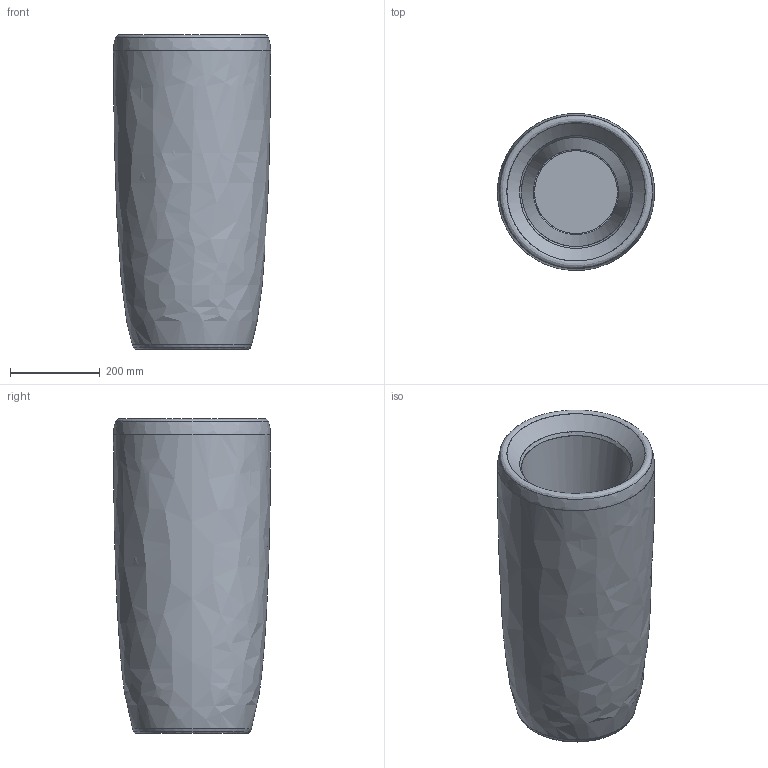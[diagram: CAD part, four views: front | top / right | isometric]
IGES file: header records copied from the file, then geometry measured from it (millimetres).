
Start section: SolidWorks IGES file using NURBS representation for surfaces
Global section: file name: Z:\Modele 3D_WWW\_KOLEKCJE WWW\FLOWERPOT\FLOWERPOT-M-9712\FLOWERPOT-M-9712.IGS; native system: SolidWorks 2021; preprocessor: SolidWorks 2021; author: gabriela.tworek; date: 220202.104408; units: millimetre
Bounding box: 350 x 349.9 x 700 mm (x, y, z)
Surface area: 1971104.9 mm2 (no closed solid volume)
Topology: 0 solids, 0 shells, 22 faces, 98 edges, 80 vertices
Faces by surface type: bspline 22
